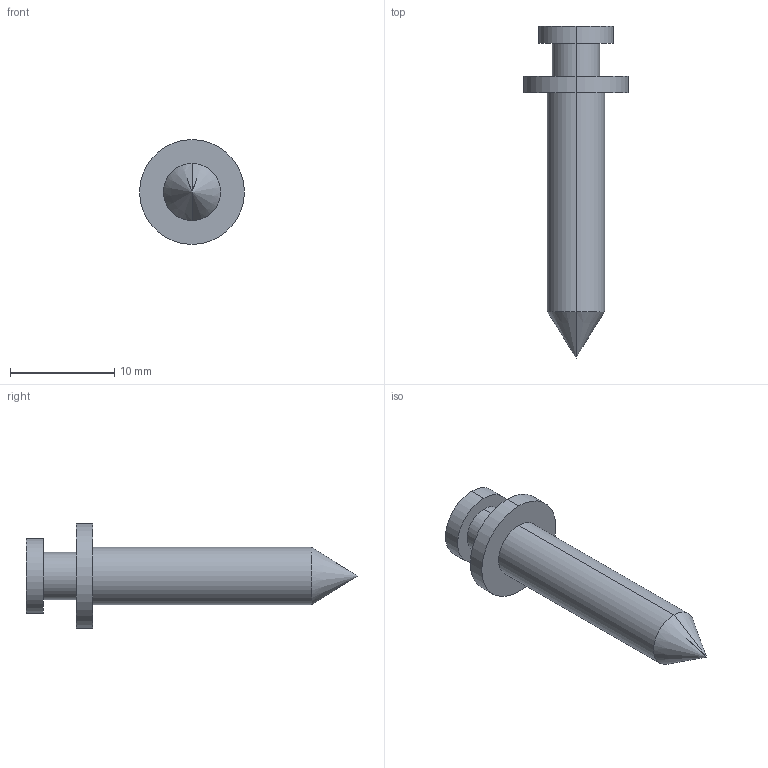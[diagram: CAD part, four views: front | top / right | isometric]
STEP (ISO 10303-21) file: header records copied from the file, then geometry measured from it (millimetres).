
FILE_DESCRIPTION (( 'STEP AP214' ), '1' );
FILE_NAME ('5069_V01_REF_PRT_SH_SCR.STEP', '2026-01-20T15:15:58', ( '' ), ( '' ), 'SwSTEP 2.0', 'SolidWorks 2025', '' );
FILE_SCHEMA (( 'AUTOMOTIVE_DESIGN' ));
Length unit declared in the file: inch
Products named in the file (1): 5069_V01_REF_PRT_SH_SCR
Bounding box: 10.03 x 31.77 x 10.03 mm (x, y, z)
Volume: 771.5 mm3; surface area: 719.1 mm2
Topology: 1 solids, 1 shells, 14 faces, 28 edges, 17 vertices
Faces by surface type: cylinder 8, plane 4, cone 2
Entity records: 385 total; most frequent: DIRECTION 72, CARTESIAN_POINT 58, ORIENTED_EDGE 52, AXIS2_PLACEMENT_3D 31, EDGE_CURVE 26, EDGE_LOOP 17, VERTEX_POINT 17, CIRCLE 16
